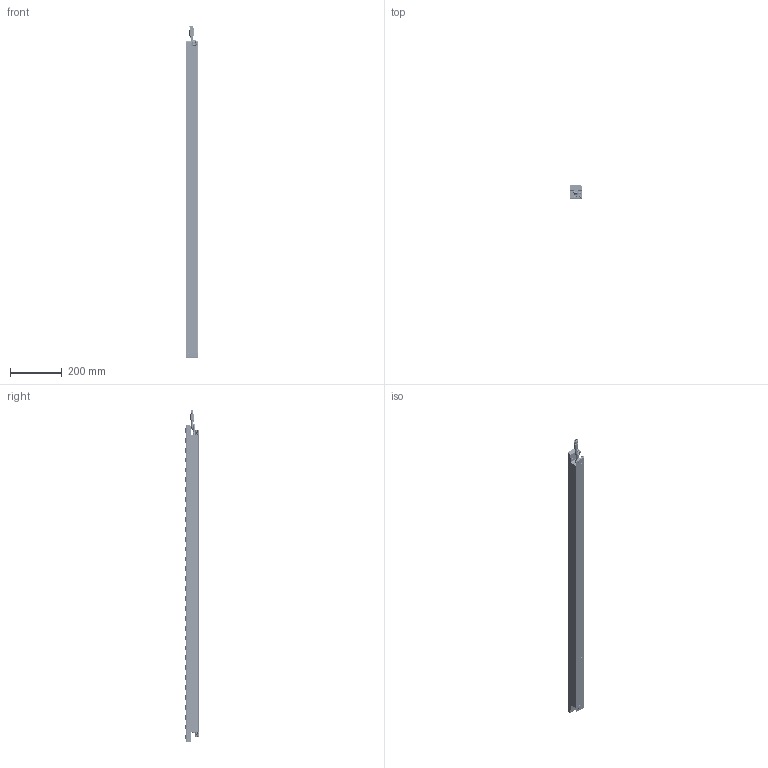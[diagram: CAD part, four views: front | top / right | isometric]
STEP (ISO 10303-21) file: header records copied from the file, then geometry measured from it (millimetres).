
FILE_DESCRIPTION (( 'STEP AP214' ), '1' );
FILE_NAME ('L45 4ft model.STEP', '2023-08-14T21:57:52', ( '' ), ( '' ), 'SwSTEP 2.0', 'SolidWorks 2022', '' );
FILE_SCHEMA (( 'AUTOMOTIVE_DESIGN' ));
Length unit declared in the file: millimetre
Products named in the file (204): RES0603_RES-001316-00-3; CAP0805_CAP-000341-00-14; PCB_HERMES_REVJ_T2.0_APC-000359-00-1; RES0603_RES-000081-00-3; SCW-000156-00_92005A116; POWERDI5_DIO-000148-00-5; CVR-000791-XX_L65; RES0402_RES-000736-00-1; CMC_TDK_B82732F_MAG-000093-00-1; RES0402_RES-000877-00-3; L45 4ft model; SOD-523_CMP-04326-2; CAP1206_CAP-000146-00-1; RES0603_RES-000061-00-12; BAS-000021-00; SOT323_FET_TRA-000108-00-1; RES0603_RES-001012-00-3; RES0402_RES-000957-00-1; Iris_L45_2FT_RevC; IND_WURTH_744748471_MAG-000092-00-1; SOT23-3_XIC-000179-00-1; SPG-000023-00_1561T13; L2520_MAG-000016-00-1; LED_SEOUL_3528_LED-000270-00-1; SOIC_8_XIC-000174-00-1; CAP0603_CAP-000340-00-1; CONN_SAM_3P_2.54MM_VERT_CON-000220-00-1; CONN-4_2.5MM_SINBON_CON-000221-00-1; RES0402_RES-000975-00-1; RES0603_RES-001006-00-3; REF-000106-00; CAP0402_CAP-000309-00-11; FCAP_P=15_W=5_H=10.5_L=18_CAP-000281-00-1; ACB-000261-00; RES1206_RES-000128-00-1; SOT323_BJT_TRA-000107-00-1; RES1206_RES-000209-00-1; SOIC-8_EP_XIC-000180-00-1; CAP0402_CAP-000338-00-3; Cable_1^Harness_1-ACB-000256-00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
Assembly tree (464 placements, depth 4):
  L45 4ft model
    BAS-000021-00
    Iris_L45_2FT_RevC  x2
      Iris_L45_2FT_RevC_BOARD
      SOD-523_CMP-04326-2
      CAP0402_CAP-000157-00-6
      FP-87438-0443-P-MFG_CMP-02411-1
      RES1206_MAG-000066-00-1
      RES0603_RES-000155-00-3
      RES0402_RES-000877-00-3
      CAP0402_CAP-000338-00-3
      LED_SEOUL_3528_LED-000270-00-1
      VQFN48_XIC-000116-00-1
      RES0603_RES-000092-00-12
      SRN6028_MAG-000017-00-1
      RES0402_RES-000957-00-1
      LED0603_DIO-000085-00-11
      CAP0603_CAP-000502-00-11
      RES0805_RES-000022-00-1
      SOT23-5_XIC-000168-00-1
      CAP0805_CAP-000343-00-14
      CAP0805_CAP-000147-00-1
      CAP0603_CAP-000501-00-11
      RES0603_RES-000809-00-12
      RES0603_RES-001304-00-1
      RES0603_RES-001303-00-1
      VFDFN10_EP_XIC-000127-00-1
      RES0603_RES-000154-00-12
      RES0603_RES-000085-00-12
      CAP0805_CAP-000342-00-1
      RES0603_RES-000061-00-12
      RES0603_RES-000054-00-12
      RES0603_RES-000070-00-12
      RES0603_RES-001328-00-12
      SOT323_BJT_TRA-000107-00-1
      SOT23-3_FET_TRA-000109-00-9
      SOT323_FET_TRA-000108-00-1
      CAP0603_CAP-000019-00-11
      RES0402_RES-000876-00-1
      SOT1210_FET_TRA-000058-00-11
      CONN_M50-3130545_HARWIN_CON-000136-00-1
      SOD-523_DIO-000128-00-25
      POWERDI5_DIO-000148-00-5
      CAP0805_CAP-000341-00-14
      CAP0402_CAP-000339-00-3
      CAP0402_CAP-000309-00-11
      CAP0603_CAP-000340-00-11
      PTS810_SWH-000002-00-1
      RES0402_RES-000736-00-1
      RES0402_RES-000742-00-1
      RES0402_RES-000975-00-1
      RES0402_RES-000955-00-1
      RES0402_RES-000732-00-1
      RES0402_RES-000752-00-1
      RES0603_RES-000953-00-12
      RES0603_RES-000961-00-1
      RES1206_RES-000128-00-1
      CAP0402_CAP-000327-00-3
      L2520_MAG-000016-00-1
      CMC_LAIRD_CM7060M132R-10_MAG-000069-00-1
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Bounding box: 50 x 50.79 x 1278.99 mm (x, y, z)
Volume: 1061499.2 mm3; surface area: 1309239 mm2
Topology: 755 solids, 2622 shells, 26613 faces, 71849 edges, 48789 vertices
Faces by surface type: plane 14708, cylinder 7227, bspline 2200, sphere 988, cone 877, torus 613
Entity records: 754014 total; most frequent: CARTESIAN_POINT 239534, ORIENTED_EDGE 85085, DIRECTION 80351, EDGE_CURVE 47137, VERTEX_POINT 33265, LINE 29453, VECTOR 29453, AXIS2_PLACEMENT_3D 25449
